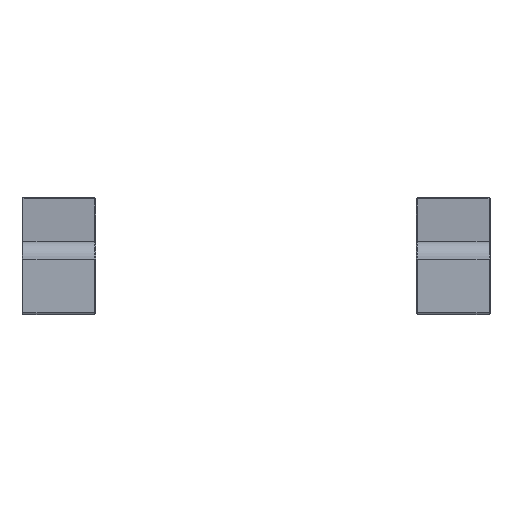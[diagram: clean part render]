
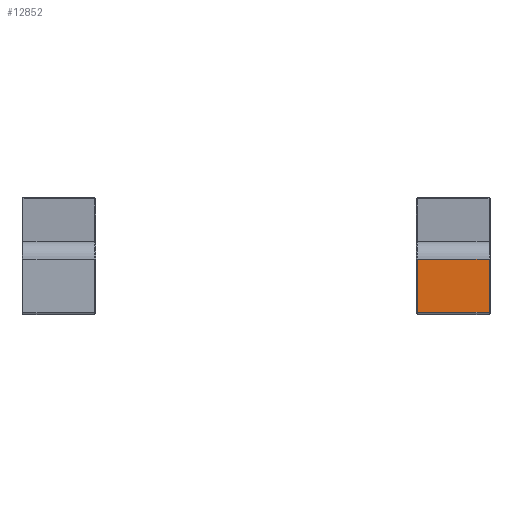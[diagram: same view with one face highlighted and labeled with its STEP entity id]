
A CAD part, left-side view. The second image highlights one B-rep face of the part: STEP entity #12852.
In plain terms, the highlighted planar face has unit normal (-1, 0, 0).
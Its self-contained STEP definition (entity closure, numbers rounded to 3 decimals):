
#1194=FACE_OUTER_BOUND('',#1996,.T.);
#1996=EDGE_LOOP('',(#8903,#8904,#8905,#8906));
#2889=LINE('',#18783,#4149);
#2951=LINE('',#19166,#4211);
#2980=LINE('',#19385,#4240);
#2981=LINE('',#19387,#4241);
#4149=VECTOR('',#14999,10.);
#4211=VECTOR('',#15171,10.);
#4240=VECTOR('',#15248,10.);
#4241=VECTOR('',#15251,10.);
#5431=VERTEX_POINT('',#18773);
#5433=VERTEX_POINT('',#18779);
#5497=VERTEX_POINT('',#19160);
#5498=VERTEX_POINT('',#19164);
#6623=EDGE_CURVE('',#5431,#5433,#2889,.T.);
#6722=EDGE_CURVE('',#5497,#5498,#2951,.T.);
#6763=EDGE_CURVE('',#5498,#5431,#2980,.T.);
#6764=EDGE_CURVE('',#5433,#5497,#2981,.T.);
#8903=ORIENTED_EDGE('',*,*,#6623,.F.);
#8904=ORIENTED_EDGE('',*,*,#6763,.F.);
#8905=ORIENTED_EDGE('',*,*,#6722,.F.);
#8906=ORIENTED_EDGE('',*,*,#6764,.F.);
#12405=PLANE('',#13779);
#12852=ADVANCED_FACE('',(#1194),#12405,.T.);
#13779=AXIS2_PLACEMENT_3D('',#19386,#15249,#15250);
#14999=DIRECTION('',(0.,0.,1.));
#15171=DIRECTION('',(0.,0.,-1.));
#15248=DIRECTION('',(0.,1.,0.));
#15249=DIRECTION('center_axis',(-1.,0.,0.));
#15250=DIRECTION('ref_axis',(0.,0.,-1.));
#15251=DIRECTION('',(0.,-1.,0.));
#18773=CARTESIAN_POINT('',(-257.077,-69.649,-35.555));
#18779=CARTESIAN_POINT('',(-257.077,-69.649,-10.181));
#18783=CARTESIAN_POINT('',(-257.077,-69.649,-3.995));
#19160=CARTESIAN_POINT('',(-257.077,-103.851,-10.181));
#19164=CARTESIAN_POINT('',(-257.077,-103.851,-35.555));
#19166=CARTESIAN_POINT('',(-257.077,-103.851,-3.995));
#19385=CARTESIAN_POINT('',(-257.077,-79.25,-35.555));
#19386=CARTESIAN_POINT('Origin',(-257.077,-79.25,-3.555));
#19387=CARTESIAN_POINT('',(-257.077,-79.25,-10.181));
